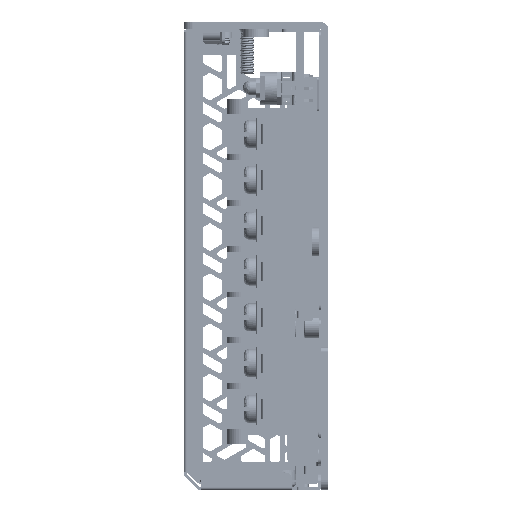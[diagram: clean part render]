
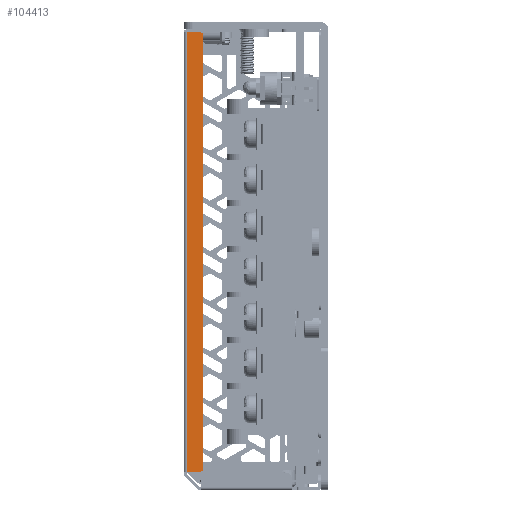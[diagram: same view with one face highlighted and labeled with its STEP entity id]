
A CAD part, left-side view. The second image highlights one B-rep face of the part: STEP entity #104413.
In plain terms, the highlighted free-form (B-spline) face has degree [3, 3] with [4, 4] control points.
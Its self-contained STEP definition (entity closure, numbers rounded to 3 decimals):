
#23022=DIRECTION('',(0.,0.,-1.));
#23023=VECTOR('',#23022,91.1);
#23024=CARTESIAN_POINT('',(-17.8,29.4,46.4));
#23025=LINE('',#23024,#23023);
#23026=DIRECTION('',(0.,1.,0.));
#23027=VECTOR('',#23026,2.9);
#23028=CARTESIAN_POINT('',(-17.8,26.5,46.4));
#23029=LINE('',#23028,#23027);
#23065=CARTESIAN_POINT('',(-17.8,26.5,-44.2));
#23066=DIRECTION('',(1.,0.,0.));
#23067=DIRECTION('',(0.,-1.,0.));
#23068=AXIS2_PLACEMENT_3D('',#23065,#23066,#23067);
#23070=DIRECTION('',(0.,1.,0.));
#23071=VECTOR('',#23070,2.9);
#23072=CARTESIAN_POINT('',(-17.8,26.5,-44.7));
#23073=LINE('',#23072,#23071);
#23074=CARTESIAN_POINT('',(-17.8,26.5,45.9));
#23075=DIRECTION('',(1.,0.,0.));
#23076=DIRECTION('',(0.,0.,1.));
#23077=AXIS2_PLACEMENT_3D('',#23074,#23075,#23076);
#44387=DIRECTION('',(0.,0.,1.));
#44388=VECTOR('',#44387,90.1);
#44389=CARTESIAN_POINT('',(-17.8,26.,-44.2));
#44390=LINE('',#44389,#44388);
#73887=CARTESIAN_POINT('',(-17.8,29.4,-44.7));
#73888=VERTEX_POINT('',#73887);
#73889=CARTESIAN_POINT('',(-17.8,26.5,-44.7));
#73890=VERTEX_POINT('',#73889);
#73892=CARTESIAN_POINT('',(-17.8,26.,-44.2));
#73894=VERTEX_POINT('',#73892);
#73897=CARTESIAN_POINT('',(-17.8,26.5,46.4));
#73898=CARTESIAN_POINT('',(-17.8,26.,45.9));
#73899=VERTEX_POINT('',#73897);
#73900=VERTEX_POINT('',#73898);
#73903=CARTESIAN_POINT('',(-17.8,29.4,46.4));
#73904=VERTEX_POINT('',#73903);
#104386=CARTESIAN_POINT('',(-17.8,25.829,-46.522));
#104387=CARTESIAN_POINT('',(-17.8,27.076,-46.522));
#104388=CARTESIAN_POINT('',(-17.8,28.324,-46.522));
#104389=CARTESIAN_POINT('',(-17.8,29.571,-46.522));
#104390=CARTESIAN_POINT('',(-17.8,25.829,-14.941));
#104391=CARTESIAN_POINT('',(-17.8,27.076,-14.941));
#104392=CARTESIAN_POINT('',(-17.8,28.324,-14.941));
#104393=CARTESIAN_POINT('',(-17.8,29.571,-14.941));
#104394=CARTESIAN_POINT('',(-17.8,25.829,16.641));
#104395=CARTESIAN_POINT('',(-17.8,27.076,16.641));
#104396=CARTESIAN_POINT('',(-17.8,28.324,16.641));
#104397=CARTESIAN_POINT('',(-17.8,29.571,16.641));
#104398=CARTESIAN_POINT('',(-17.8,25.829,48.222));
#104399=CARTESIAN_POINT('',(-17.8,27.076,48.222));
#104400=CARTESIAN_POINT('',(-17.8,28.324,48.222));
#104401=CARTESIAN_POINT('',(-17.8,29.571,48.222));
#104402=B_SPLINE_SURFACE_WITH_KNOTS('',3,3,((#104386,#104387,#104388,#104389),(
#104390,#104391,#104392,#104393),(#104394,#104395,#104396,#104397),(#104398,
#104399,#104400,#104401)),.UNSPECIFIED.,.F.,.F.,.F.,(4,4),(4,4),(-1.822,
92.922),(-4.171,-0.429),.UNSPECIFIED.);
#104403=ORIENTED_EDGE('',*,*,#104369,.T.);
#104405=ORIENTED_EDGE('',*,*,#104404,.T.);
#104406=ORIENTED_EDGE('',*,*,#104253,.F.);
#104407=ORIENTED_EDGE('',*,*,#104286,.F.);
#104408=ORIENTED_EDGE('',*,*,#104313,.T.);
#104410=ORIENTED_EDGE('',*,*,#104409,.F.);
#104411=EDGE_LOOP('',(#104403,#104405,#104406,#104407,#104408,#104410));
#104412=FACE_OUTER_BOUND('',#104411,.F.);
#104413=ADVANCED_FACE('',(#104412),#104402,.T.);
#23069=CIRCLE('',#23068,0.5);
#23078=CIRCLE('',#23077,0.5);
#104253=EDGE_CURVE('',#73904,#73888,#23025,.T.);
#104286=EDGE_CURVE('',#73899,#73904,#23029,.T.);
#104313=EDGE_CURVE('',#73899,#73900,#23078,.T.);
#104369=EDGE_CURVE('',#73894,#73890,#23069,.T.);
#104404=EDGE_CURVE('',#73890,#73888,#23073,.T.);
#104409=EDGE_CURVE('',#73894,#73900,#44390,.T.);
